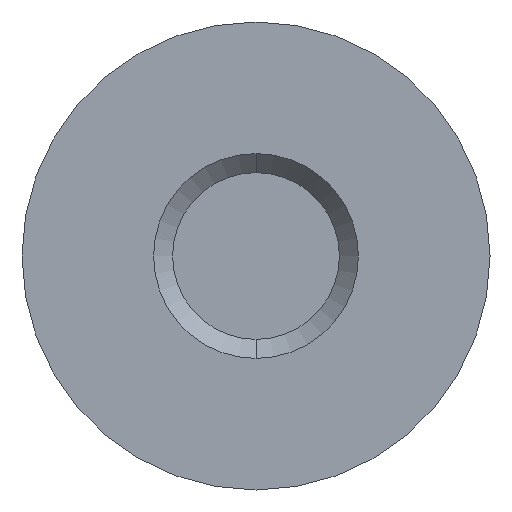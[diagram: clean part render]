
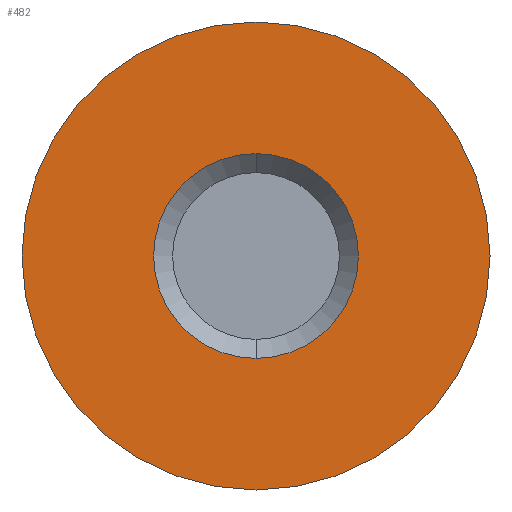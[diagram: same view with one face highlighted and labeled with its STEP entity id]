
A CAD part, front view. The second image highlights one B-rep face of the part: STEP entity #482.
In plain terms, the highlighted planar face has unit normal (0, -1, 0).
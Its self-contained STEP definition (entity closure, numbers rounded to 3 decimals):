
#5 = VERTEX_POINT ( 'NONE', #151 ) ;
#12 = AXIS2_PLACEMENT_3D ( 'NONE', #421, #49, #641 ) ;
#19 = DIRECTION ( 'NONE',  ( 0., 0., -1. ) ) ;
#34 = CIRCLE ( 'NONE', #350, 4. ) ;
#48 = ORIENTED_EDGE ( 'NONE', *, *, #304, .F. ) ;
#49 = DIRECTION ( 'NONE',  ( 0., 1., 0. ) ) ;
#52 = FACE_OUTER_BOUND ( 'NONE', #629, .T. ) ;
#65 = AXIS2_PLACEMENT_3D ( 'NONE', #394, #166, #19 ) ;
#88 = EDGE_CURVE ( 'NONE', #604, #603, #161, .T. ) ;
#103 = CIRCLE ( 'NONE', #429, 4. ) ;
#118 = FACE_BOUND ( 'NONE', #587, .T. ) ;
#132 = CARTESIAN_POINT ( 'NONE',  ( 0., 0., -1.75 ) ) ;
#151 = CARTESIAN_POINT ( 'NONE',  ( 0., 0., 4. ) ) ;
#161 = CIRCLE ( 'NONE', #65, 1.75 ) ;
#166 = DIRECTION ( 'NONE',  ( 0., 1., 0. ) ) ;
#169 = ORIENTED_EDGE ( 'NONE', *, *, #624, .T. ) ;
#181 = ORIENTED_EDGE ( 'NONE', *, *, #88, .T. ) ;
#182 = DIRECTION ( 'NONE',  ( 0., -1., 0. ) ) ;
#225 = DIRECTION ( 'NONE',  ( 0., 1., 0. ) ) ;
#269 = DIRECTION ( 'NONE',  ( 0., 0., 1. ) ) ;
#282 = VERTEX_POINT ( 'NONE', #568 ) ;
#304 = EDGE_CURVE ( 'NONE', #282, #5, #34, .T. ) ;
#313 = CIRCLE ( 'NONE', #12, 1.75 ) ;
#350 = AXIS2_PLACEMENT_3D ( 'NONE', #507, #553, #509 ) ;
#355 = ORIENTED_EDGE ( 'NONE', *, *, #504, .F. ) ;
#375 = PLANE ( 'NONE',  #617 ) ;
#394 = CARTESIAN_POINT ( 'NONE',  ( 0., 0., 0. ) ) ;
#421 = CARTESIAN_POINT ( 'NONE',  ( 0., 0., 0. ) ) ;
#429 = AXIS2_PLACEMENT_3D ( 'NONE', #513, #225, #269 ) ;
#463 = DIRECTION ( 'NONE',  ( 0., 0., -1. ) ) ;
#482 = ADVANCED_FACE ( 'NONE', ( #118, #52 ), #375, .T. ) ;
#504 = EDGE_CURVE ( 'NONE', #5, #282, #103, .T. ) ;
#507 = CARTESIAN_POINT ( 'NONE',  ( 0., 0., 0. ) ) ;
#509 = DIRECTION ( 'NONE',  ( 0., 0., 1. ) ) ;
#513 = CARTESIAN_POINT ( 'NONE',  ( 0., 0., 0. ) ) ;
#553 = DIRECTION ( 'NONE',  ( 0., 1., 0. ) ) ;
#568 = CARTESIAN_POINT ( 'NONE',  ( 0., 0., -4. ) ) ;
#587 = EDGE_LOOP ( 'NONE', ( #181, #169 ) ) ;
#603 = VERTEX_POINT ( 'NONE', #632 ) ;
#604 = VERTEX_POINT ( 'NONE', #132 ) ;
#616 = CARTESIAN_POINT ( 'NONE',  ( 2.875, 0., 0. ) ) ;
#617 = AXIS2_PLACEMENT_3D ( 'NONE', #616, #182, #463 ) ;
#624 = EDGE_CURVE ( 'NONE', #603, #604, #313, .T. ) ;
#629 = EDGE_LOOP ( 'NONE', ( #355, #48 ) ) ;
#632 = CARTESIAN_POINT ( 'NONE',  ( 0., 0., 1.75 ) ) ;
#641 = DIRECTION ( 'NONE',  ( 0., 0., -1. ) ) ;
